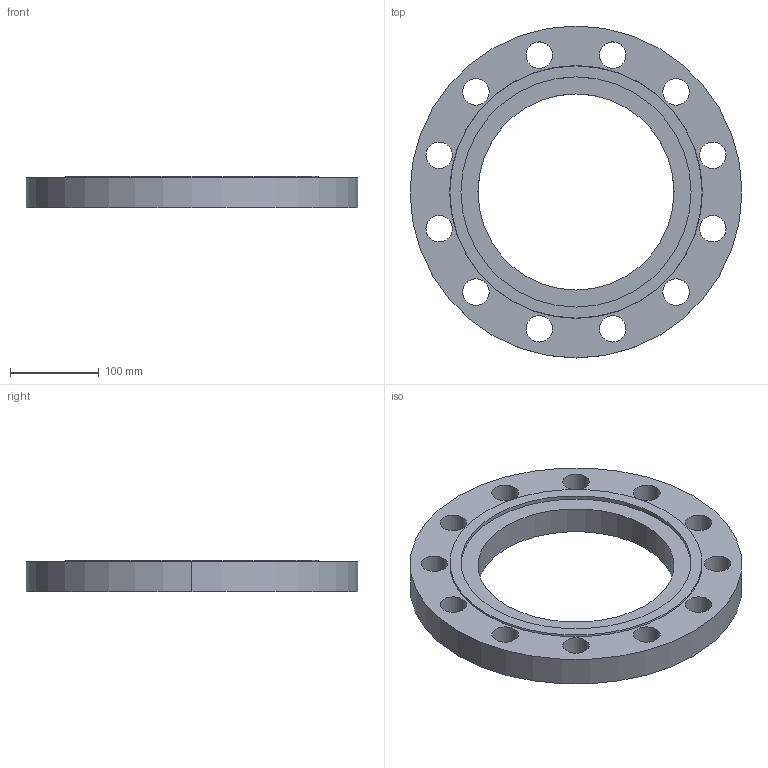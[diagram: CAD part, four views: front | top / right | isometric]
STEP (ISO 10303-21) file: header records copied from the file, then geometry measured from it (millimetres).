
FILE_DESCRIPTION (( 'STEP AP214' ), '1' );
FILE_NAME ('PN40 DN200 Type 01 - Type F Face.STEP', '2019-01-05T02:28:02', ( '' ), ( '' ), 'SwSTEP 2.0', 'SolidWorks 2019', '' );
FILE_SCHEMA (( 'AUTOMOTIVE_DESIGN' ));
Length unit declared in the file: millimetre
Products named in the file (1): PN40 DN200 Type 01 - Type F Face
Bounding box: 375 x 375 x 36 mm (x, y, z)
Volume: 2141970.5 mm3; surface area: 232470 mm2
Topology: 1 solids, 1 shells, 36 faces, 96 edges, 64 vertices
Faces by surface type: cylinder 30, plane 4, cone 2
Entity records: 1250 total; most frequent: DIRECTION 234, CARTESIAN_POINT 197, ORIENTED_EDGE 192, AXIS2_PLACEMENT_3D 101, EDGE_CURVE 96, EDGE_LOOP 64, CIRCLE 64, VERTEX_POINT 64
